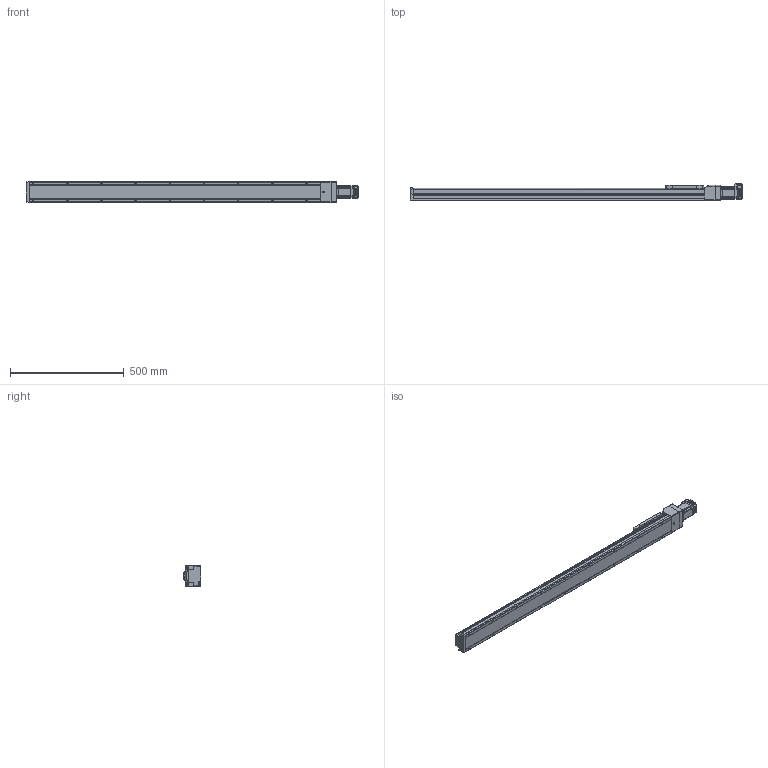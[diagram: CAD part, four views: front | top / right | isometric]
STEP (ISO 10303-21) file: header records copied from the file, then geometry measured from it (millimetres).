
FILE_DESCRIPTION (( 'STEP AP214' ), '1' );
FILE_NAME ('LEFS3(+)-40NM1仩-1100-23L.STEP', '2023-06-02T05:23:13', ( '' ), ( '' ), 'SwSTEP 2.0', 'SolidWorks 2019', '' );
FILE_SCHEMA (( 'AUTOMOTIVE_DESIGN' ));
Length unit declared in the file: millimetre
Products named in the file (5): CM3(+)-23L50A_4-M4; LEFS3(+)-40NM1?_BODY_1100; LEFS3(+)-40NM1_TABLE; LEFS3(+)-40NM1仩-1100-23L; LEFS3(+)-40NM1_Motor Flange
Assembly tree (4 placements, depth 2):
  LEFS3(+)-40NM1仩-1100-23L
    LEFS3(+)-40NM1?_BODY_1100
    LEFS3(+)-40NM1_TABLE
    LEFS3(+)-40NM1_Motor Flange
    CM3(+)-23L50A_4-M4
Bounding box: 1457.6 x 76.75 x 90 mm (x, y, z)
Volume: 6059526 mm3; surface area: 513483.8 mm2
Topology: 5 solids, 14 shells, 1670 faces, 4341 edges, 2688 vertices
Faces by surface type: plane 764, cylinder 535, bspline 133, cone 117, torus 74, sphere 47
Entity records: 56665 total; most frequent: CARTESIAN_POINT 14105, ORIENTED_EDGE 8532, DIRECTION 7978, EDGE_CURVE 4266, AXIS2_PLACEMENT_3D 2724, VERTEX_POINT 2688, VECTOR 2530, LINE 2530
